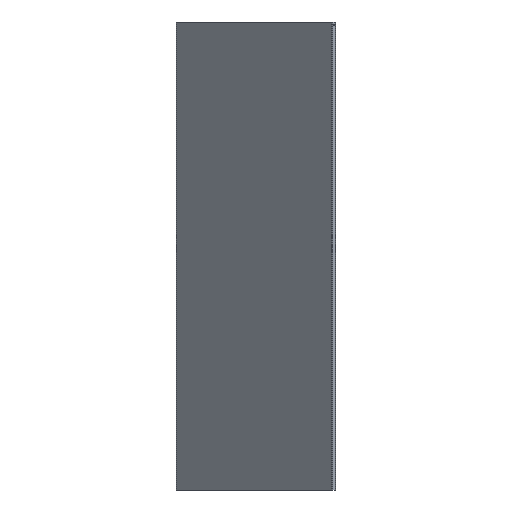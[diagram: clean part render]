
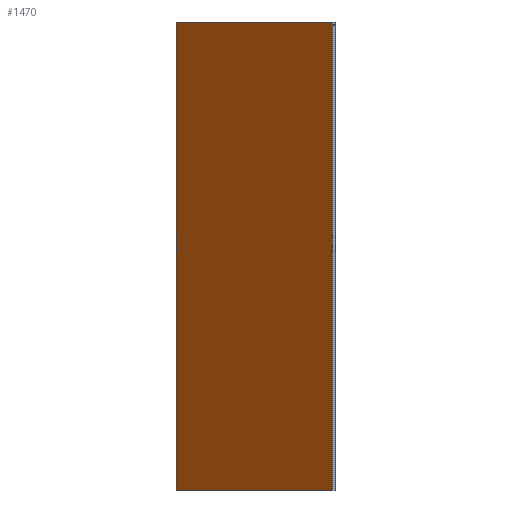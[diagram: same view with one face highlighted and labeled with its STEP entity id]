
A CAD part, left-side view. The second image highlights one B-rep face of the part: STEP entity #1470.
In plain terms, the highlighted planar face has unit normal (-0.707, 0.707, 0).
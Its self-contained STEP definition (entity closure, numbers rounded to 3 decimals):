
#43 = VECTOR ( 'NONE', #1620, 1000. ) ;
#91 = DIRECTION ( 'NONE',  ( 0., 0., 1. ) ) ;
#118 = CARTESIAN_POINT ( 'NONE',  ( 498.727, 499.859, 1500. ) ) ;
#143 = EDGE_CURVE ( 'NONE', #1595, #212, #440, .T. ) ;
#145 = FACE_OUTER_BOUND ( 'NONE', #446, .T. ) ;
#173 = PLANE ( 'NONE',  #1052 ) ;
#212 = VERTEX_POINT ( 'NONE', #300 ) ;
#271 = DIRECTION ( 'NONE',  ( 0.707, 0.707, 0. ) ) ;
#300 = CARTESIAN_POINT ( 'NONE',  ( 1.141, 2.273, 1500. ) ) ;
#326 = VECTOR ( 'NONE', #271, 1000. ) ;
#349 = DIRECTION ( 'NONE',  ( 0.707, 0.707, 0. ) ) ;
#408 = EDGE_CURVE ( 'NONE', #1106, #636, #689, .T. ) ;
#440 = LINE ( 'NONE', #1357, #1563 ) ;
#446 = EDGE_LOOP ( 'NONE', ( #1114, #654, #1588, #1479 ) ) ;
#480 = LINE ( 'NONE', #602, #1115 ) ;
#602 = CARTESIAN_POINT ( 'NONE',  ( -0.566, 0.566, 1500. ) ) ;
#636 = VERTEX_POINT ( 'NONE', #1060 ) ;
#653 = EDGE_CURVE ( 'NONE', #1595, #636, #706, .T. ) ;
#654 = ORIENTED_EDGE ( 'NONE', *, *, #143, .T. ) ;
#689 = LINE ( 'NONE', #118, #43 ) ;
#699 = DIRECTION ( 'NONE',  ( -0.707, -0.707, 0. ) ) ;
#706 = LINE ( 'NONE', #1201, #326 ) ;
#1050 = EDGE_CURVE ( 'NONE', #212, #1106, #480, .T. ) ;
#1052 = AXIS2_PLACEMENT_3D ( 'NONE', #1248, #1511, #699 ) ;
#1060 = CARTESIAN_POINT ( 'NONE',  ( 498.727, 499.859, 0. ) ) ;
#1106 = VERTEX_POINT ( 'NONE', #1578 ) ;
#1114 = ORIENTED_EDGE ( 'NONE', *, *, #653, .F. ) ;
#1115 = VECTOR ( 'NONE', #349, 1000. ) ;
#1201 = CARTESIAN_POINT ( 'NONE',  ( -0.566, 0.566, 0. ) ) ;
#1248 = CARTESIAN_POINT ( 'NONE',  ( -0.566, 0.566, 1500. ) ) ;
#1357 = CARTESIAN_POINT ( 'NONE',  ( 1.141, 2.273, 0. ) ) ;
#1470 = ADVANCED_FACE ( 'NONE', ( #145 ), #173, .T. ) ;
#1479 = ORIENTED_EDGE ( 'NONE', *, *, #408, .T. ) ;
#1511 = DIRECTION ( 'NONE',  ( -0.707, 0.707, 0. ) ) ;
#1563 = VECTOR ( 'NONE', #91, 1000. ) ;
#1578 = CARTESIAN_POINT ( 'NONE',  ( 498.727, 499.859, 1500. ) ) ;
#1588 = ORIENTED_EDGE ( 'NONE', *, *, #1050, .T. ) ;
#1595 = VERTEX_POINT ( 'NONE', #1677 ) ;
#1620 = DIRECTION ( 'NONE',  ( 0., 0., -1. ) ) ;
#1677 = CARTESIAN_POINT ( 'NONE',  ( 1.141, 2.273, 0. ) ) ;
